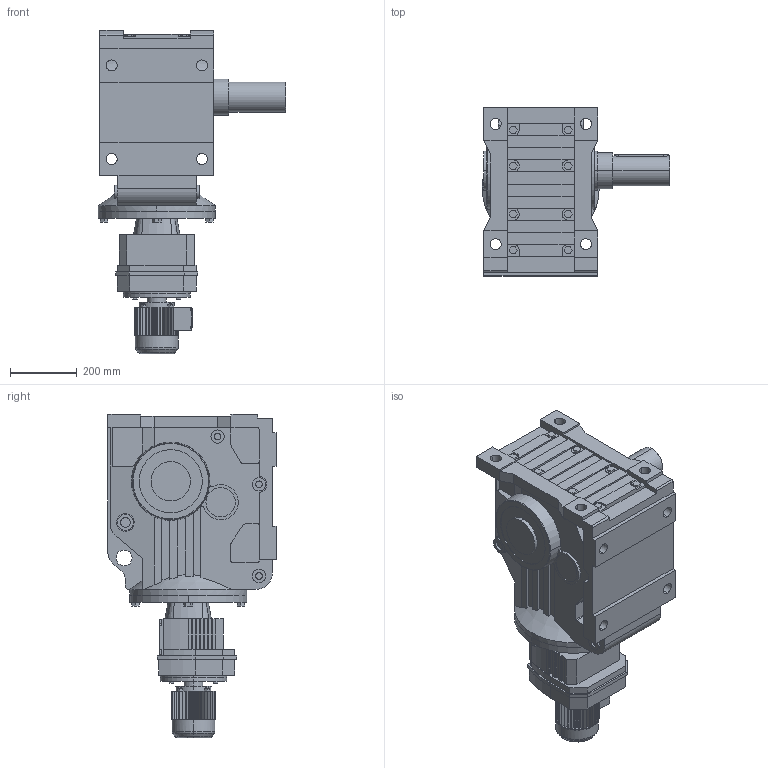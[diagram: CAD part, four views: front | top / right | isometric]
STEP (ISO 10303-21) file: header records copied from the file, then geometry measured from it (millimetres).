
FILE_DESCRIPTION(('Open CASCADE Model'),'2;1');
FILE_NAME('Open CASCADE Shape Model','2021-07-24T16:17:57',('Author'),( 'Open CASCADE'),'Open CASCADE STEP processor 6.3','Open CASCADE 6.3' ,'Unknown');
FILE_SCHEMA(('AUTOMOTIVE_DESIGN_CC2 { 1 2 10303 214 -1 1 5 4 }'));
Length unit declared in the file: millimetre
Products named in the file (5): 1_K107R77DR63-A; K37‵157_107.step; 萇儂_200-DR63-179-234-132-105.step; R_107_77.step; す瑩妗陑粣K_107.step
Assembly tree (4 placements, depth 2):
  1_K107R77DR63-A
    K37‵157_107.step
    萇儂_200-DR63-179-234-132-105.step
    R_107_77.step
    す瑩妗陑粣K_107.step
Bounding box: 561 x 503 x 967 mm (x, y, z)
Volume: 77141839.5 mm3; surface area: 2437069 mm2
Topology: 4 solids, 4 shells, 1086 faces, 2880 edges, 1879 vertices
Faces by surface type: plane 775, cylinder 279, cone 24, torus 8
Entity records: 74775 total; most frequent: CARTESIAN_POINT 19624, DIRECTION 9589, ORIENTED_EDGE 5756, PCURVE 5756, DEFINITIONAL_REPRESENTATION 5756, LINE 5494, VECTOR 5494, EDGE_CURVE 2878
